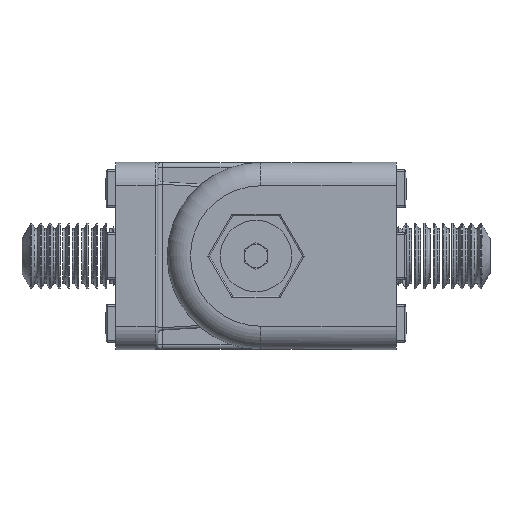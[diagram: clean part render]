
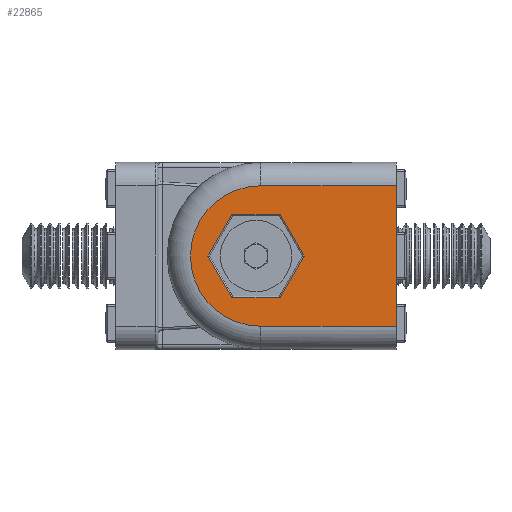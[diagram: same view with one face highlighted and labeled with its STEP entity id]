
A CAD part, left-side view. The second image highlights one B-rep face of the part: STEP entity #22865.
In plain terms, the highlighted planar face has unit normal (-1, 0, 0).
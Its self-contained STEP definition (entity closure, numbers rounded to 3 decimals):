
#160=FACE_BOUND('',#2966,.T.);
#270=PLANE('',#24076);
#880=CIRCLE('',#24077,15.);
#1912=FACE_OUTER_BOUND('',#2965,.T.);
#2965=EDGE_LOOP('',(#16505,#16506,#16507,#16508));
#2966=EDGE_LOOP('',(#16509,#16510,#16511,#16512,#16513,#16514));
#4228=LINE('',#33482,#6913);
#4229=LINE('',#33487,#6914);
#4230=LINE('',#33491,#6915);
#4231=LINE('',#33495,#6916);
#4232=LINE('',#33499,#6917);
#4233=LINE('',#33501,#6918);
#4234=LINE('',#33505,#6919);
#4235=LINE('',#33507,#6920);
#4236=LINE('',#33510,#6921);
#6913=VECTOR('',#26246,1000.);
#6914=VECTOR('',#26253,1000.);
#6915=VECTOR('',#26258,1000.);
#6916=VECTOR('',#26263,1000.);
#6917=VECTOR('',#26268,1000.);
#6918=VECTOR('',#26271,1000.);
#6919=VECTOR('',#26274,1000.);
#6920=VECTOR('',#26275,1000.);
#6921=VECTOR('',#26278,1000.);
#9748=VERTEX_POINT('',#33479);
#9749=VERTEX_POINT('',#33481);
#9750=VERTEX_POINT('',#33485);
#9751=VERTEX_POINT('',#33489);
#9752=VERTEX_POINT('',#33493);
#9753=VERTEX_POINT('',#33497);
#9754=VERTEX_POINT('',#33503);
#9755=VERTEX_POINT('',#33504);
#9756=VERTEX_POINT('',#33506);
#9757=VERTEX_POINT('',#33508);
#12539=EDGE_CURVE('',#9749,#9748,#4228,.T.);
#12542=EDGE_CURVE('',#9748,#9750,#4229,.T.);
#12544=EDGE_CURVE('',#9750,#9751,#4230,.T.);
#12546=EDGE_CURVE('',#9751,#9752,#4231,.T.);
#12548=EDGE_CURVE('',#9752,#9753,#4232,.T.);
#12549=EDGE_CURVE('',#9753,#9749,#4233,.T.);
#12550=EDGE_CURVE('',#9754,#9755,#4234,.T.);
#12551=EDGE_CURVE('',#9754,#9756,#4235,.T.);
#12552=EDGE_CURVE('',#9756,#9757,#880,.T.);
#12553=EDGE_CURVE('',#9757,#9755,#4236,.T.);
#16505=ORIENTED_EDGE('',*,*,#12550,.F.);
#16506=ORIENTED_EDGE('',*,*,#12551,.T.);
#16507=ORIENTED_EDGE('',*,*,#12552,.T.);
#16508=ORIENTED_EDGE('',*,*,#12553,.T.);
#16509=ORIENTED_EDGE('',*,*,#12549,.T.);
#16510=ORIENTED_EDGE('',*,*,#12539,.T.);
#16511=ORIENTED_EDGE('',*,*,#12542,.T.);
#16512=ORIENTED_EDGE('',*,*,#12544,.T.);
#16513=ORIENTED_EDGE('',*,*,#12546,.T.);
#16514=ORIENTED_EDGE('',*,*,#12548,.T.);
#22865=ADVANCED_FACE('',(#1912,#160),#270,.F.);
#24076=AXIS2_PLACEMENT_3D('',#33502,#26272,#26273);
#24077=AXIS2_PLACEMENT_3D('',#33509,#26276,#26277);
#26246=DIRECTION('',(0.,-0.5,0.866));
#26253=DIRECTION('',(0.,-1.,0.));
#26258=DIRECTION('',(0.,-0.5,-0.866));
#26263=DIRECTION('',(0.,0.5,-0.866));
#26268=DIRECTION('',(0.,1.,0.));
#26271=DIRECTION('',(0.,0.5,0.866));
#26272=DIRECTION('center_axis',(1.,0.,0.));
#26273=DIRECTION('ref_axis',(0.,0.,-1.));
#26274=DIRECTION('',(0.,0.,-1.));
#26275=DIRECTION('',(0.,1.,0.));
#26276=DIRECTION('center_axis',(-1.,0.,0.));
#26277=DIRECTION('ref_axis',(0.,0.,-1.));
#26278=DIRECTION('',(0.,-1.,0.));
#33479=CARTESIAN_POINT('',(-20.767,11.391,8.804));
#33481=CARTESIAN_POINT('',(-20.767,16.53,-0.096));
#33482=CARTESIAN_POINT('',(-20.767,0.05,28.447));
#33485=CARTESIAN_POINT('',(-20.767,1.114,8.804));
#33487=CARTESIAN_POINT('',(-20.767,-14.747,8.804));
#33489=CARTESIAN_POINT('',(-20.767,-4.024,-0.096));
#33491=CARTESIAN_POINT('',(-20.767,1.955,10.261));
#33493=CARTESIAN_POINT('',(-20.767,1.114,-8.996));
#33495=CARTESIAN_POINT('',(-20.767,-15.365,19.547));
#33497=CARTESIAN_POINT('',(-20.767,11.391,-8.996));
#33499=CARTESIAN_POINT('',(-20.767,-14.747,-8.996));
#33501=CARTESIAN_POINT('',(-20.767,17.371,1.361));
#33502=CARTESIAN_POINT('Origin',(-20.767,-14.747,19.904));
#33503=CARTESIAN_POINT('',(-20.767,-23.747,14.904));
#33504=CARTESIAN_POINT('',(-20.767,-23.747,-15.096));
#33505=CARTESIAN_POINT('',(-20.767,-23.747,19.904));
#33506=CARTESIAN_POINT('',(-20.767,5.253,14.904));
#33507=CARTESIAN_POINT('',(-20.767,-14.747,14.904));
#33508=CARTESIAN_POINT('',(-20.767,5.253,-15.096));
#33509=CARTESIAN_POINT('Origin',(-20.767,5.253,-0.096));
#33510=CARTESIAN_POINT('',(-20.767,-23.747,-15.096));
